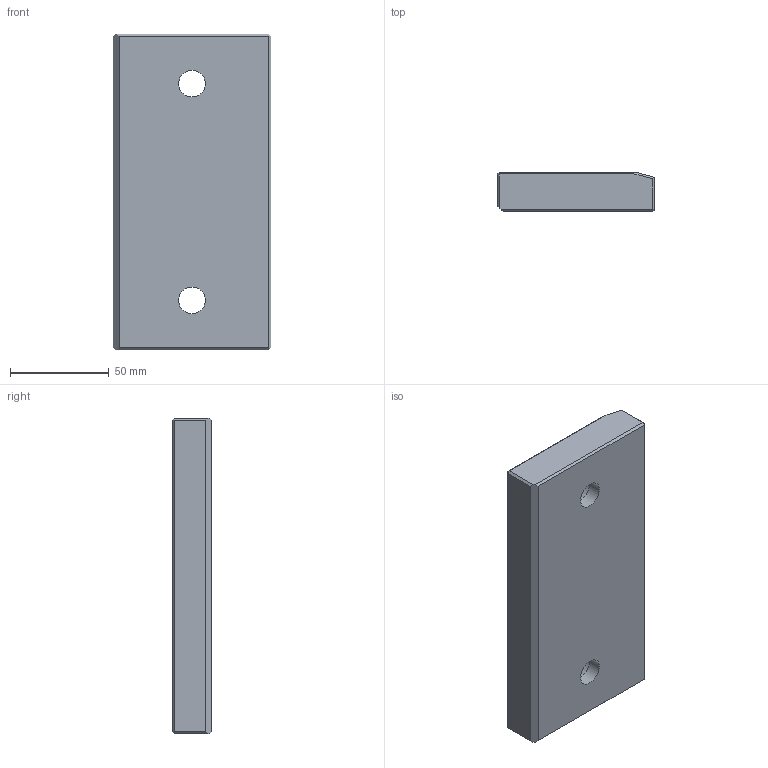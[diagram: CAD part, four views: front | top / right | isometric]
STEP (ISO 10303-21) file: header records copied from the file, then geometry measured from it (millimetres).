
FILE_DESCRIPTION(/* description */ ('Impex Ready, www.impex-ready.pl'),/* implementation_level */ '2;1');
FILE_NAME(/* name */ 'C:\Users\VIKKY\Nextcloud\SM\projekt 10 - części na stronę internetową\Pliki_3D_new\321 Płytki PG13\321 PG13_STEP\PG13.160080.ipt.step',/* time_stamp */ '2021-12-19T18:01:33+01:00',/* author */ ('SM'),/* organization */ (''),/* preprocessor_version */ 'ST-DEVELOPER v18.1',/* originating_system */ 'Autodesk Inventor 2021',/* authorisation */ '');
FILE_SCHEMA (('AUTOMOTIVE_DESIGN { 1 0 10303 214 3 1 1 }'));
Length unit declared in the file: millimetre
Products named in the file (1): PG13.160080
Bounding box: 80 x 20 x 160 mm (x, y, z)
Volume: 242547.3 mm3; surface area: 35677.1 mm2
Topology: 1 solids, 1 shells, 35 faces, 75 edges, 44 vertices
Faces by surface type: plane 26, cylinder 5, cone 4
Full cylindrical faces by diameter (mm): 13.5 x2, 20 x2
Entity records: 1023 total; most frequent: DIRECTION 163, CARTESIAN_POINT 155, ORIENTED_EDGE 150, EDGE_CURVE 75, LINE 59, VECTOR 59, AXIS2_PLACEMENT_3D 52, VERTEX_POINT 44
